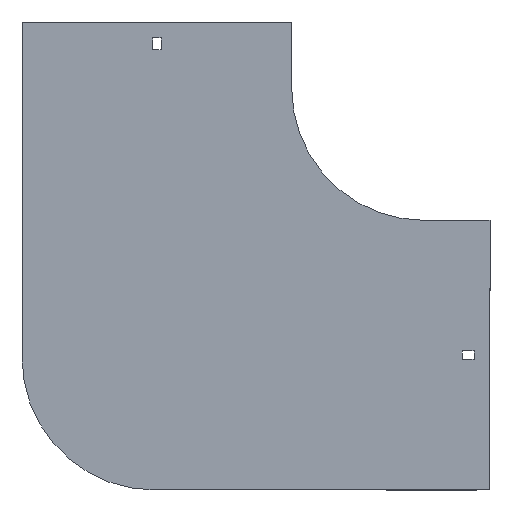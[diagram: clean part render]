
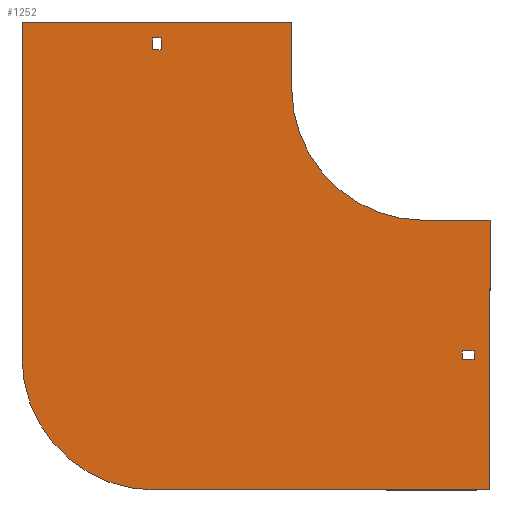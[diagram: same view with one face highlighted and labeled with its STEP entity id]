
A CAD part, front view. The second image highlights one B-rep face of the part: STEP entity #1252.
In plain terms, the highlighted planar face has unit normal (0, -1, 0).
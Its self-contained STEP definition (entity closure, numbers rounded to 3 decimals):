
#17 = LINE ( 'NONE', #578, #715 ) ;
#18 = CIRCLE ( 'NONE', #770, 100. ) ;
#23 = LINE ( 'NONE', #463, #1397 ) ;
#31 = CARTESIAN_POINT ( 'NONE',  ( -304., 0., 50. ) ) ;
#33 = CARTESIAN_POINT ( 'NONE',  ( 50., 0., -100. ) ) ;
#38 = DIRECTION ( 'NONE',  ( 1., 0., 0. ) ) ;
#50 = VECTOR ( 'NONE', #1368, 1000. ) ;
#99 = LINE ( 'NONE', #767, #361 ) ;
#101 = DIRECTION ( 'NONE',  ( 0., 0., -1. ) ) ;
#110 = EDGE_LOOP ( 'NONE', ( #548, #1257, #805, #1253 ) ) ;
#113 = VERTEX_POINT ( 'NONE', #946 ) ;
#129 = VERTEX_POINT ( 'NONE', #847 ) ;
#138 = VECTOR ( 'NONE', #484, 1000. ) ;
#146 = VERTEX_POINT ( 'NONE', #320 ) ;
#147 = DIRECTION ( 'NONE',  ( 0., 0., -1. ) ) ;
#150 = CARTESIAN_POINT ( 'NONE',  ( 50., 0., -304. ) ) ;
#153 = DIRECTION ( 'NONE',  ( 0., 0., -1. ) ) ;
#164 = EDGE_CURVE ( 'NONE', #760, #997, #925, .T. ) ;
#166 = EDGE_CURVE ( 'NONE', #129, #1198, #327, .T. ) ;
#168 = FACE_BOUND ( 'NONE', #319, .T. ) ;
#209 = EDGE_CURVE ( 'NONE', #301, #308, #17, .T. ) ;
#210 = LINE ( 'NONE', #653, #419 ) ;
#211 = EDGE_CURVE ( 'NONE', #308, #765, #23, .T. ) ;
#212 = CARTESIAN_POINT ( 'NONE',  ( -304., 0., -204. ) ) ;
#233 = AXIS2_PLACEMENT_3D ( 'NONE', #798, #792, #714 ) ;
#234 = ORIENTED_EDGE ( 'NONE', *, *, #1227, .F. ) ;
#236 = CARTESIAN_POINT ( 'NONE',  ( 29., 0., -205.25 ) ) ;
#249 = CARTESIAN_POINT ( 'NONE',  ( -205.25, 0., 38. ) ) ;
#257 = LINE ( 'NONE', #150, #138 ) ;
#289 = VERTEX_POINT ( 'NONE', #31 ) ;
#301 = VERTEX_POINT ( 'NONE', #454 ) ;
#308 = VERTEX_POINT ( 'NONE', #1119 ) ;
#314 = EDGE_CURVE ( 'NONE', #1198, #1385, #597, .T. ) ;
#315 = EDGE_CURVE ( 'NONE', #959, #456, #489, .T. ) ;
#319 = EDGE_LOOP ( 'NONE', ( #1230, #1067, #422, #679 ) ) ;
#320 = CARTESIAN_POINT ( 'NONE',  ( -100., 0., 50. ) ) ;
#327 = LINE ( 'NONE', #440, #1083 ) ;
#328 = AXIS2_PLACEMENT_3D ( 'NONE', #1173, #651, #1388 ) ;
#348 = DIRECTION ( 'NONE',  ( 0., 0., 1. ) ) ;
#354 = LINE ( 'NONE', #236, #405 ) ;
#361 = VECTOR ( 'NONE', #442, 1000. ) ;
#385 = EDGE_CURVE ( 'NONE', #705, #959, #18, .T. ) ;
#405 = VECTOR ( 'NONE', #1087, 1000. ) ;
#419 = VECTOR ( 'NONE', #101, 1000. ) ;
#422 = ORIENTED_EDGE ( 'NONE', *, *, #1103, .F. ) ;
#429 = CARTESIAN_POINT ( 'NONE',  ( -304., 0., -204. ) ) ;
#440 = CARTESIAN_POINT ( 'NONE',  ( -205.25, 0., 29. ) ) ;
#442 = DIRECTION ( 'NONE',  ( 1., 0., 0. ) ) ;
#454 = CARTESIAN_POINT ( 'NONE',  ( 38., 0., -205.25 ) ) ;
#456 = VERTEX_POINT ( 'NONE', #33 ) ;
#463 = CARTESIAN_POINT ( 'NONE',  ( 29., 0., -198.75 ) ) ;
#477 = ORIENTED_EDGE ( 'NONE', *, *, #619, .F. ) ;
#484 = DIRECTION ( 'NONE',  ( -1., 0., 0. ) ) ;
#489 = LINE ( 'NONE', #903, #1150 ) ;
#494 = VECTOR ( 'NONE', #38, 1000. ) ;
#502 = FACE_OUTER_BOUND ( 'NONE', #778, .T. ) ;
#525 = CARTESIAN_POINT ( 'NONE',  ( -205.25, 0., 29. ) ) ;
#548 = ORIENTED_EDGE ( 'NONE', *, *, #166, .T. ) ;
#563 = ORIENTED_EDGE ( 'NONE', *, *, #962, .F. ) ;
#570 = EDGE_CURVE ( 'NONE', #113, #760, #257, .T. ) ;
#577 = LINE ( 'NONE', #891, #613 ) ;
#578 = CARTESIAN_POINT ( 'NONE',  ( 38., 0., -205.25 ) ) ;
#594 = LINE ( 'NONE', #684, #1203 ) ;
#597 = LINE ( 'NONE', #1003, #494 ) ;
#600 = DIRECTION ( 'NONE',  ( 1., 0., 0. ) ) ;
#613 = VECTOR ( 'NONE', #1403, 1000. ) ;
#619 = EDGE_CURVE ( 'NONE', #146, #705, #1200, .T. ) ;
#651 = DIRECTION ( 'NONE',  ( 0., 1., 0. ) ) ;
#653 = CARTESIAN_POINT ( 'NONE',  ( 50., 0., -100. ) ) ;
#660 = FACE_BOUND ( 'NONE', #110, .T. ) ;
#673 = EDGE_CURVE ( 'NONE', #289, #146, #594, .T. ) ;
#679 = ORIENTED_EDGE ( 'NONE', *, *, #211, .F. ) ;
#682 = DIRECTION ( 'NONE',  ( 1., 0., 0. ) ) ;
#684 = CARTESIAN_POINT ( 'NONE',  ( -304., 0., 50. ) ) ;
#689 = PLANE ( 'NONE',  #233 ) ;
#701 = CARTESIAN_POINT ( 'NONE',  ( -198.75, 0., 29. ) ) ;
#705 = VERTEX_POINT ( 'NONE', #1091 ) ;
#708 = ORIENTED_EDGE ( 'NONE', *, *, #385, .F. ) ;
#714 = DIRECTION ( 'NONE',  ( 0., 0., -1. ) ) ;
#715 = VECTOR ( 'NONE', #348, 1000. ) ;
#729 = VERTEX_POINT ( 'NONE', #701 ) ;
#744 = ORIENTED_EDGE ( 'NONE', *, *, #164, .F. ) ;
#760 = VERTEX_POINT ( 'NONE', #915 ) ;
#765 = VERTEX_POINT ( 'NONE', #1348 ) ;
#767 = CARTESIAN_POINT ( 'NONE',  ( 29., 0., -205.25 ) ) ;
#770 = AXIS2_PLACEMENT_3D ( 'NONE', #912, #1340, #147 ) ;
#778 = EDGE_LOOP ( 'NONE', ( #1261, #563, #744, #852, #234, #1344, #708, #477 ) ) ;
#780 = VECTOR ( 'NONE', #1295, 1000. ) ;
#792 = DIRECTION ( 'NONE',  ( 0., -1., 0. ) ) ;
#798 = CARTESIAN_POINT ( 'NONE',  ( 0., 0., 0. ) ) ;
#805 = ORIENTED_EDGE ( 'NONE', *, *, #1158, .T. ) ;
#846 = CARTESIAN_POINT ( 'NONE',  ( 29., 0., -205.25 ) ) ;
#847 = CARTESIAN_POINT ( 'NONE',  ( -205.25, 0., 29. ) ) ;
#849 = EDGE_CURVE ( 'NONE', #729, #129, #1140, .T. ) ;
#852 = ORIENTED_EDGE ( 'NONE', *, *, #570, .F. ) ;
#856 = VECTOR ( 'NONE', #153, 1000. ) ;
#891 = CARTESIAN_POINT ( 'NONE',  ( -198.75, 0., 29. ) ) ;
#903 = CARTESIAN_POINT ( 'NONE',  ( 0., 0., -100. ) ) ;
#912 = CARTESIAN_POINT ( 'NONE',  ( 0., 0., 0. ) ) ;
#915 = CARTESIAN_POINT ( 'NONE',  ( -204., 0., -304. ) ) ;
#925 = CIRCLE ( 'NONE', #328, 100. ) ;
#946 = CARTESIAN_POINT ( 'NONE',  ( 50., 0., -304. ) ) ;
#957 = LINE ( 'NONE', #429, #780 ) ;
#959 = VERTEX_POINT ( 'NONE', #1288 ) ;
#962 = EDGE_CURVE ( 'NONE', #997, #289, #957, .T. ) ;
#997 = VERTEX_POINT ( 'NONE', #212 ) ;
#1003 = CARTESIAN_POINT ( 'NONE',  ( -205.25, 0., 38. ) ) ;
#1030 = CARTESIAN_POINT ( 'NONE',  ( -198.75, 0., 38. ) ) ;
#1067 = ORIENTED_EDGE ( 'NONE', *, *, #1332, .F. ) ;
#1072 = VERTEX_POINT ( 'NONE', #846 ) ;
#1083 = VECTOR ( 'NONE', #1291, 1000. ) ;
#1087 = DIRECTION ( 'NONE',  ( 0., 0., -1. ) ) ;
#1088 = DIRECTION ( 'NONE',  ( -1., 0., 0. ) ) ;
#1091 = CARTESIAN_POINT ( 'NONE',  ( -100., 0., 0. ) ) ;
#1096 = CARTESIAN_POINT ( 'NONE',  ( -100., 0., 50. ) ) ;
#1103 = EDGE_CURVE ( 'NONE', #765, #1072, #354, .T. ) ;
#1119 = CARTESIAN_POINT ( 'NONE',  ( 38., 0., -198.75 ) ) ;
#1140 = LINE ( 'NONE', #525, #50 ) ;
#1150 = VECTOR ( 'NONE', #682, 1000. ) ;
#1158 = EDGE_CURVE ( 'NONE', #1385, #729, #577, .T. ) ;
#1173 = CARTESIAN_POINT ( 'NONE',  ( -204., 0., -204. ) ) ;
#1198 = VERTEX_POINT ( 'NONE', #249 ) ;
#1200 = LINE ( 'NONE', #1096, #856 ) ;
#1203 = VECTOR ( 'NONE', #600, 1000. ) ;
#1227 = EDGE_CURVE ( 'NONE', #456, #113, #210, .T. ) ;
#1230 = ORIENTED_EDGE ( 'NONE', *, *, #209, .F. ) ;
#1252 = ADVANCED_FACE ( 'NONE', ( #660, #502, #168 ), #689, .T. ) ;
#1253 = ORIENTED_EDGE ( 'NONE', *, *, #849, .T. ) ;
#1257 = ORIENTED_EDGE ( 'NONE', *, *, #314, .T. ) ;
#1261 = ORIENTED_EDGE ( 'NONE', *, *, #673, .F. ) ;
#1288 = CARTESIAN_POINT ( 'NONE',  ( 0., 0., -100. ) ) ;
#1291 = DIRECTION ( 'NONE',  ( 0., 0., 1. ) ) ;
#1295 = DIRECTION ( 'NONE',  ( 0., 0., 1. ) ) ;
#1332 = EDGE_CURVE ( 'NONE', #1072, #301, #99, .T. ) ;
#1340 = DIRECTION ( 'NONE',  ( 0., -1., 0. ) ) ;
#1344 = ORIENTED_EDGE ( 'NONE', *, *, #315, .F. ) ;
#1348 = CARTESIAN_POINT ( 'NONE',  ( 29., 0., -198.75 ) ) ;
#1368 = DIRECTION ( 'NONE',  ( -1., 0., 0. ) ) ;
#1385 = VERTEX_POINT ( 'NONE', #1030 ) ;
#1388 = DIRECTION ( 'NONE',  ( 0., 0., 1. ) ) ;
#1397 = VECTOR ( 'NONE', #1088, 1000. ) ;
#1403 = DIRECTION ( 'NONE',  ( 0., 0., -1. ) ) ;
